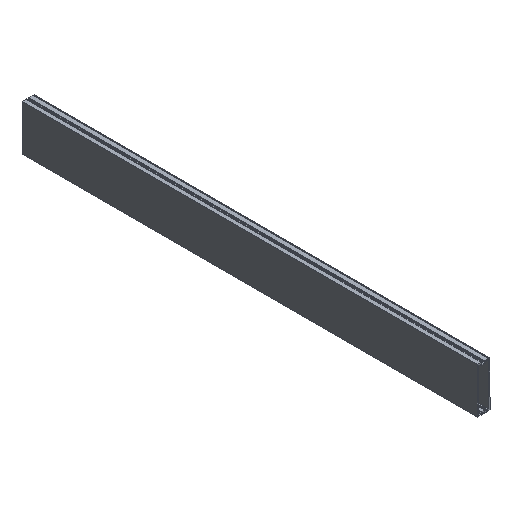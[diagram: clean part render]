
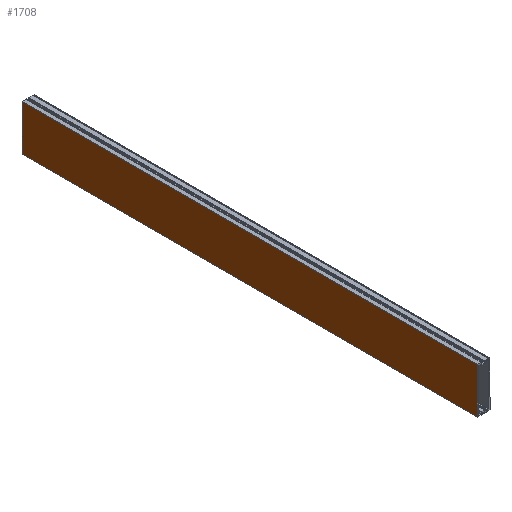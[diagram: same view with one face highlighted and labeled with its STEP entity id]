
A CAD part, isometric view. The second image highlights one B-rep face of the part: STEP entity #1708.
In plain terms, the highlighted planar face has unit normal (-1, 0, 0).
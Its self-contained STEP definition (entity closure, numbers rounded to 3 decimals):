
#236 = LINE ( 'NONE', #2715, #2620 ) ;
#314 = CARTESIAN_POINT ( 'NONE',  ( -37., 3000., -149.5 ) ) ;
#348 = VERTEX_POINT ( 'NONE', #2531 ) ;
#426 = DIRECTION ( 'NONE',  ( 0., 0., 1. ) ) ;
#435 = DIRECTION ( 'NONE',  ( 0., -1., 0. ) ) ;
#531 = DIRECTION ( 'NONE',  ( 0., -1., 0. ) ) ;
#664 = CARTESIAN_POINT ( 'NONE',  ( -37., 3000., 149.5 ) ) ;
#726 = CARTESIAN_POINT ( 'NONE',  ( -37., 0., -149.5 ) ) ;
#768 = FACE_OUTER_BOUND ( 'NONE', #1977, .T. ) ;
#784 = EDGE_CURVE ( 'NONE', #1944, #791, #2177, .T. ) ;
#791 = VERTEX_POINT ( 'NONE', #2124 ) ;
#816 = EDGE_CURVE ( 'NONE', #1315, #791, #1079, .T. ) ;
#996 = VECTOR ( 'NONE', #426, 1000. ) ;
#1079 = LINE ( 'NONE', #726, #2558 ) ;
#1151 = VECTOR ( 'NONE', #435, 1000. ) ;
#1315 = VERTEX_POINT ( 'NONE', #3591 ) ;
#1625 = EDGE_CURVE ( 'NONE', #348, #1315, #236, .T. ) ;
#1708 = ADVANCED_FACE ( 'NONE', ( #768 ), #3643, .F. ) ;
#1901 = CARTESIAN_POINT ( 'NONE',  ( -37., 3000., 149.5 ) ) ;
#1944 = VERTEX_POINT ( 'NONE', #664 ) ;
#1977 = EDGE_LOOP ( 'NONE', ( #2481, #3023, #3501, #2728 ) ) ;
#2124 = CARTESIAN_POINT ( 'NONE',  ( -37., 0., 149.5 ) ) ;
#2129 = LINE ( 'NONE', #3516, #996 ) ;
#2177 = LINE ( 'NONE', #1901, #1151 ) ;
#2205 = AXIS2_PLACEMENT_3D ( 'NONE', #314, #3434, #3068 ) ;
#2481 = ORIENTED_EDGE ( 'NONE', *, *, #816, .T. ) ;
#2531 = CARTESIAN_POINT ( 'NONE',  ( -37., 3000., -149.5 ) ) ;
#2558 = VECTOR ( 'NONE', #2948, 1000. ) ;
#2620 = VECTOR ( 'NONE', #531, 1000. ) ;
#2715 = CARTESIAN_POINT ( 'NONE',  ( -37., 3000., -149.5 ) ) ;
#2728 = ORIENTED_EDGE ( 'NONE', *, *, #1625, .T. ) ;
#2948 = DIRECTION ( 'NONE',  ( 0., 0., 1. ) ) ;
#3023 = ORIENTED_EDGE ( 'NONE', *, *, #784, .F. ) ;
#3068 = DIRECTION ( 'NONE',  ( 0., 0., -1. ) ) ;
#3259 = EDGE_CURVE ( 'NONE', #348, #1944, #2129, .T. ) ;
#3434 = DIRECTION ( 'NONE',  ( 1., 0., 0. ) ) ;
#3501 = ORIENTED_EDGE ( 'NONE', *, *, #3259, .F. ) ;
#3516 = CARTESIAN_POINT ( 'NONE',  ( -37., 3000., -149.5 ) ) ;
#3591 = CARTESIAN_POINT ( 'NONE',  ( -37., 0., -149.5 ) ) ;
#3643 = PLANE ( 'NONE',  #2205 ) ;
